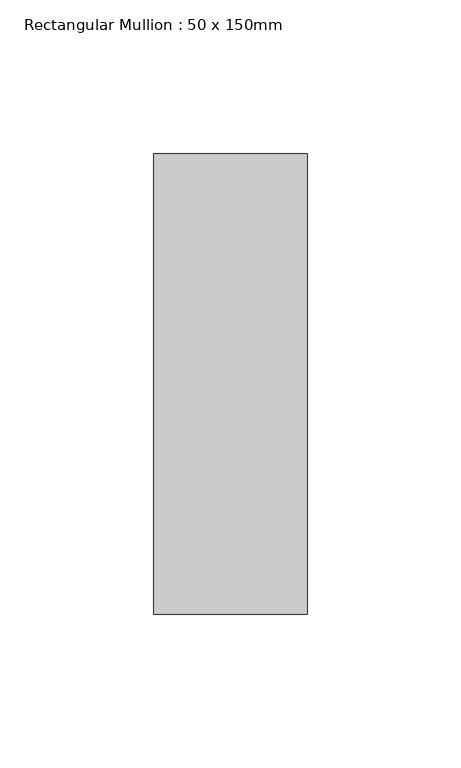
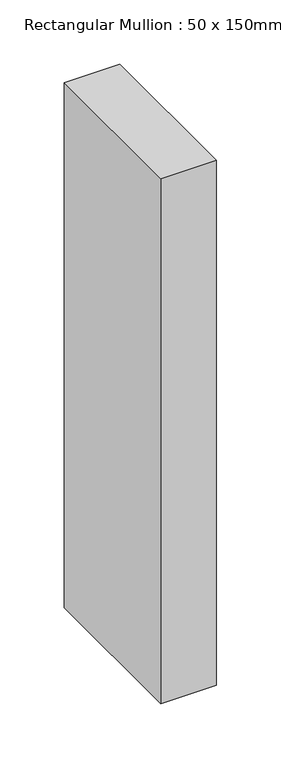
"""IFC4 building model written with IfcOpenShell, lengths in millimetres: member geometry, Rectangular Mullion : 50 x 150mm."""

from ifc_helpers import new_model, si_unit, frame, origin, place, context, project, spatial, polyline, outline, extrude, source, transform, mapped, element, save


def rectangular_mullion_50_x_150mm_af4f190b(model_context):
    return source(origin(), model_context, "Body", "SweptSolid", [
        extrude(outline(polyline([(0.0, 75.0), (0.0, -75.0), (-50.0, -75.0), (-50.0, 75.0), (0.0, 75.0)])), frame((0.0, 0.0, -498.4924443), z_axis=(0.0, 0.0, 1.0), x_axis=(1.0, 0.0, 0.0)), (0.0, 0.0, 1.0), 498.4924443),
    ])


if __name__ == "__main__":
    model = new_model("IFC4")
    model_context = context("Model", 3, world=origin())
    ifc_project = project(units=[si_unit("LENGTHUNIT", "METRE", prefix="MILLI")], contexts=[model_context])
    site = spatial("IfcSite", under=ifc_project)
    building = spatial("IfcBuilding", under=site)
    placement = place(None, origin())
    rectangular_mullion_50_x_150mm_shape = rectangular_mullion_50_x_150mm_af4f190b(model_context)
    element("IfcMember", 1, ObjectType="Rectangular Mullion : 50 x 150mm", at=placement, inside=building, context=model_context, shape_type="MappedRepresentation", body=[
        mapped(rectangular_mullion_50_x_150mm_shape, transform((0.0, 0.0, 0.0), x_axis=(1.0, 0.0, 0.0), y_axis=(0.0, 1.0, 0.0), z_axis=(0.0, 0.0, 1.0))),
    ])
    save(model, "model.ifc")
